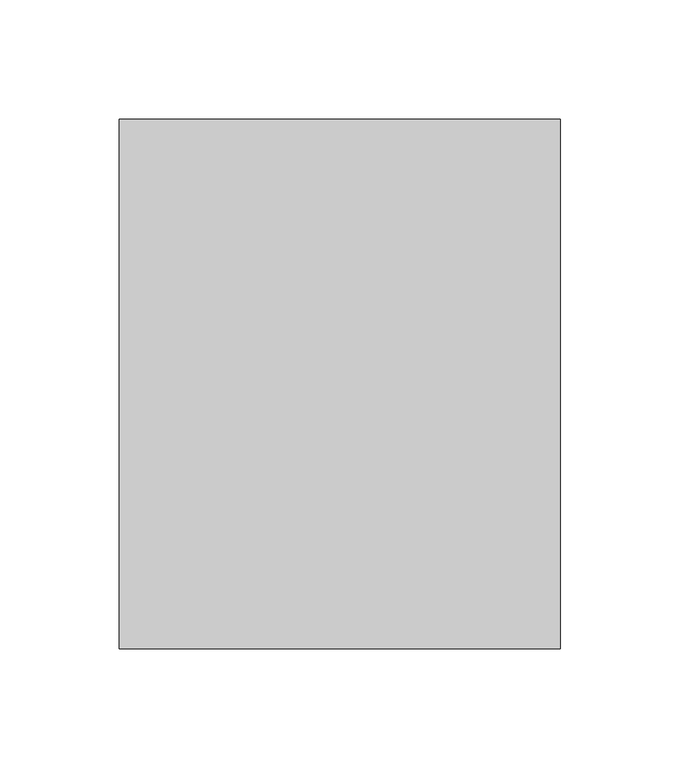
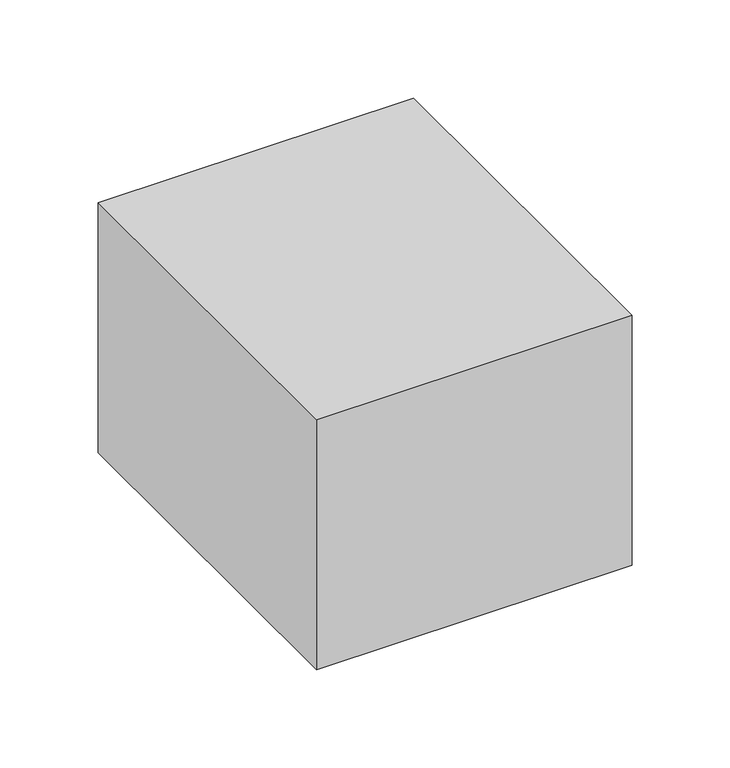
"""IFC4 building model written with IfcOpenShell, lengths in millimetres: light fixture geometry,  206 :  211875."""

from ifc_helpers import new_model, si_unit, frame, origin, place, context, project, spatial, polyline, outline, extrude, source, transform, mapped, element, save


def light_fixture_6b981a47(model_context):
    return source(origin(), model_context, "Body", "SweptSolid", [
        extrude(outline(polyline([(26928.5746511, -749.6178255), (27113.5746511, -749.6178255), (27113.5746511, -971.6178255), (26928.5746511, -971.6178255), (26928.5746511, -749.6178255)])), frame((0.0, 0.0, 1375.0), z_axis=(0.0, 0.0, 1.0), x_axis=(1.0, 0.0, 0.0)), (0.0, 0.0, 1.0), 155.0),
    ])


if __name__ == "__main__":
    model = new_model("IFC4")
    model_context = context("Model", 3, world=origin())
    ifc_project = project(units=[si_unit("LENGTHUNIT", "METRE", prefix="MILLI")], contexts=[model_context])
    site = spatial("IfcSite", under=ifc_project)
    building = spatial("IfcBuilding", under=site)
    placement = place(None, origin())
    light_fixture_shape = light_fixture_6b981a47(model_context)
    element("IfcLightFixture", 1, ObjectType=" 206 :  211875", at=placement, inside=building, context=model_context, shape_type="MappedRepresentation", body=[
        mapped(light_fixture_shape, transform((0.0, 0.0, 0.0), x_axis=(1.0, 0.0, 0.0), y_axis=(0.0, 1.0, 0.0), z_axis=(0.0, 0.0, 1.0))),
    ])
    save(model, "model.ifc")
